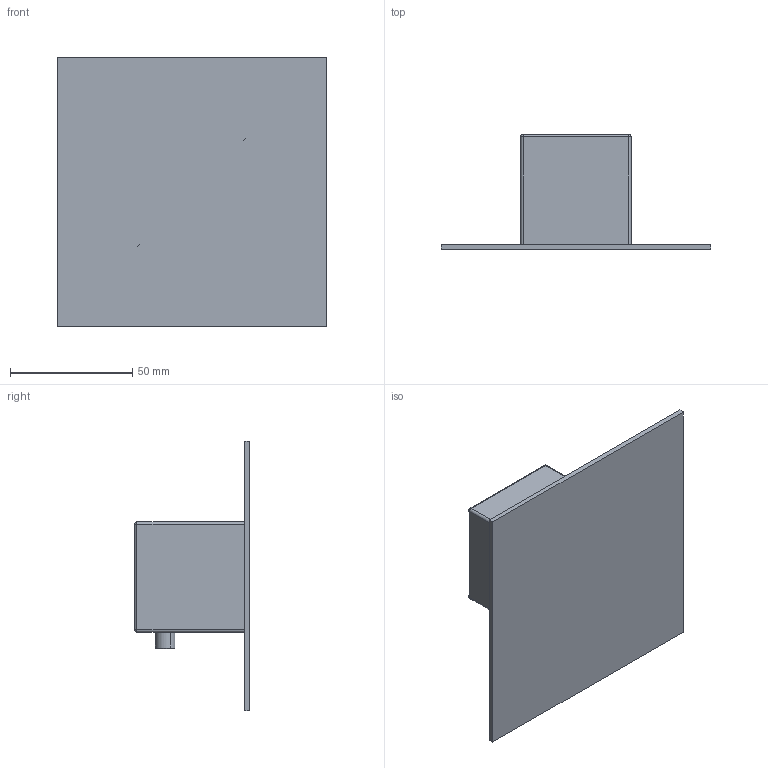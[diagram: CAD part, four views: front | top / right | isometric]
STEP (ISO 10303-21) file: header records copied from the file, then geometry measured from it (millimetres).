
FILE_DESCRIPTION (( 'STEP AP214' ), '1' );
FILE_NAME ('41258510 x architetti.STEP', '2025-02-11T10:58:47', ( '' ), ( '' ), 'SwSTEP 2.0', 'SolidWorks 2020', '' );
FILE_SCHEMA (( 'AUTOMOTIVE_DESIGN' ));
Length unit declared in the file: millimetre
Products named in the file (1): 41258510 x architetti
Bounding box: 110 x 47 x 110 mm (x, y, z)
Volume: 115517.1 mm3; surface area: 33281.4 mm2
Topology: 1 solids, 2 shells, 33 faces, 72 edges, 39 vertices
Faces by surface type: plane 13, cylinder 12, sphere 4, torus 2, cone 2
Entity records: 1232 total; most frequent: DIRECTION 162, CARTESIAN_POINT 139, ORIENTED_EDGE 132, EDGE_CURVE 66, AXIS2_PLACEMENT_3D 62, VERTEX_POINT 39, VECTOR 38, LINE 38
